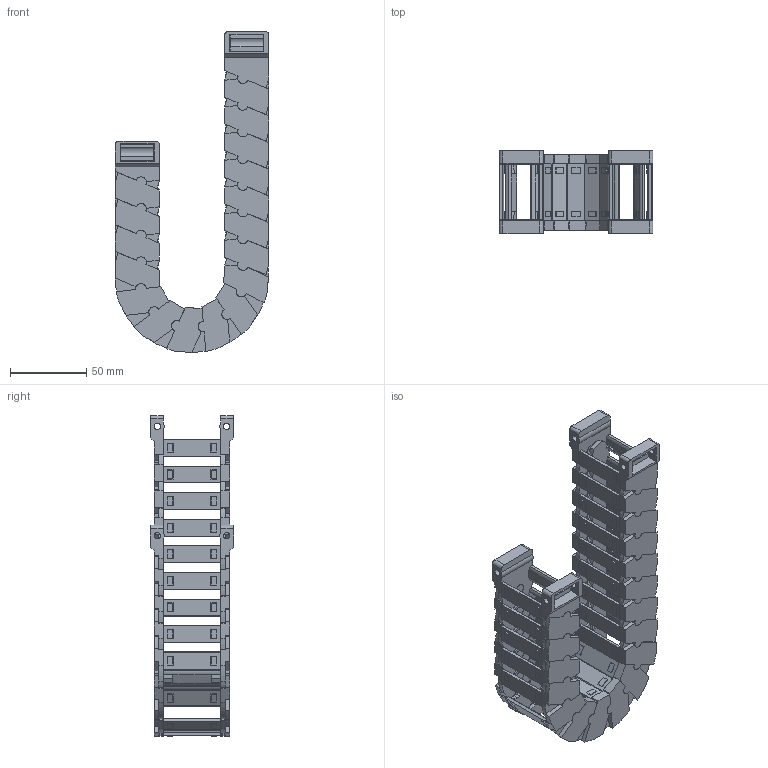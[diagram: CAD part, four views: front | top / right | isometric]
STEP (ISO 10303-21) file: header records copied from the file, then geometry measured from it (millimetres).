
FILE_DESCRIPTION(/* description */ (''),/* implementation_level */ '2;1');
FILE_NAME(/* name */ 'JY22-37-R35.stp',/* time_stamp */ '2026-06-20T14:42:55+08:00',/* author */ (''),/* organization */ (''),/* preprocessor_version */ 'ST-DEVELOPER v19.4',/* originating_system */ 'SIEMENS PLM Software NX2306.5001',/* authorisation */ '');
FILE_SCHEMA (('AP203_CONFIGURATION_CONTROLLED_3D_DESIGN_OF_MECHANICAL_PARTS_AND_ASSEMBLIES_MIM_LF { 1 0 10303 403 2 1 2}'));
Products named in the file (1): 简易图纸_objects
Bounding box: 100.88 x 54.5 x 210.31 mm (x, y, z)
Volume: 149546.7 mm3; surface area: 133680.3 mm2
Topology: 19 solids, 19 shells, 3140 faces, 10162 edges, 6766 vertices
Faces by surface type: plane 2354, cylinder 502, cone 144, bspline 140
Full cylindrical faces by diameter (mm): 4.2 x8, 7 x36, 7.1 x36
Entity records: 116691 total; most frequent: CARTESIAN_POINT 27541, ORIENTED_EDGE 20004, DIRECTION 17282, EDGE_CURVE 10002, LINE 6856, VECTOR 6856, VERTEX_POINT 6686, AXIS2_PLACEMENT_3D 5213
